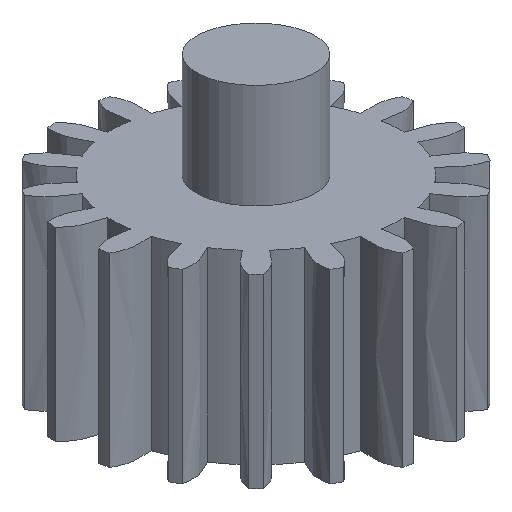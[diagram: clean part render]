
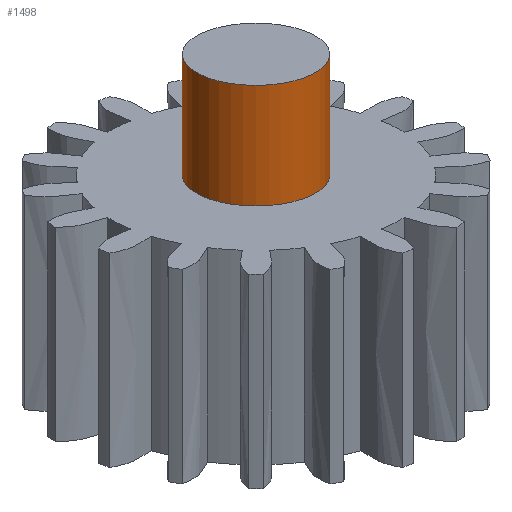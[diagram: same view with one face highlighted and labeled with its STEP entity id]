
A CAD part, top view. The second image highlights one B-rep face of the part: STEP entity #1498.
In plain terms, the highlighted cylindrical face has radius 2.5 mm (diameter 5 mm), a full revolution.
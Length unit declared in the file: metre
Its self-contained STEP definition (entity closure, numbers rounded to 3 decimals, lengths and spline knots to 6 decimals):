
#84=CYLINDRICAL_SURFACE('',#1629,0.0025);
#782=ORIENTED_EDGE('',*,*,#1014,.F.);
#783=ORIENTED_EDGE('',*,*,#785,.T.);
#785=EDGE_CURVE('',#1015,#1015,#1169,.T.);
#1014=EDGE_CURVE('',#1168,#1168,#1242,.T.);
#1015=VERTEX_POINT('',#1959);
#1168=VERTEX_POINT('',#5264);
#1169=CIRCLE('',#1514,0.0025);
#1242=CIRCLE('',#1630,0.0025);
#1324=EDGE_LOOP('',(#782));
#1325=EDGE_LOOP('',(#783));
#1408=FACE_BOUND('',#1324,.T.);
#1409=FACE_BOUND('',#1325,.T.);
#1498=ADVANCED_FACE('',(#1408,#1409),#84,.T.);
#1514=AXIS2_PLACEMENT_3D('',#1958,#1636,#1637);
#1629=AXIS2_PLACEMENT_3D('',#5262,#1950,#1951);
#1630=AXIS2_PLACEMENT_3D('',#5263,#1952,#1953);
#1636=DIRECTION('',(0.,0.906,0.423));
#1637=DIRECTION('',(1.,0.,0.));
#1950=DIRECTION('',(0.,-0.906,-0.423));
#1951=DIRECTION('',(1.,0.,0.));
#1952=DIRECTION('',(0.,0.906,0.423));
#1953=DIRECTION('',(1.,0.,0.));
#1958=CARTESIAN_POINT('',(0.,-0.218453,-0.004284));
#1959=CARTESIAN_POINT('',(0.0025,-0.218453,-0.004284));
#5262=CARTESIAN_POINT('',(0.,-0.214374,-0.002382));
#5263=CARTESIAN_POINT('',(0.,-0.214374,-0.002382));
#5264=CARTESIAN_POINT('',(0.0025,-0.214374,-0.002382));
